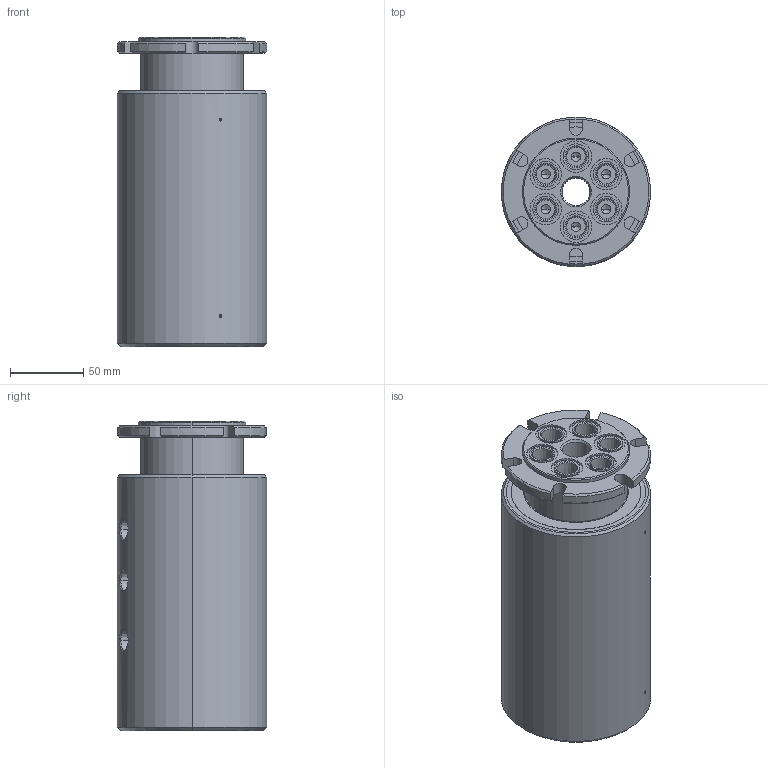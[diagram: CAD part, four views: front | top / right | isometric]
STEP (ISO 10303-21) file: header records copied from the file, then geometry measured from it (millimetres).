
FILE_DESCRIPTION (( 'STEP AP214' ), '1' );
FILE_NAME ('GP(M)-261.STEP', '2013-02-05T22:27:36', ( '' ), ( '' ), 'SwSTEP 2.0', 'SolidWorks 2011', '' );
FILE_SCHEMA (( 'AUTOMOTIVE_DESIGN' ));
Length unit declared in the file: inch
Products named in the file (1): GP(M)-261
Bounding box: 101.6 x 101.6 x 210.82 mm (x, y, z)
Volume: 1444315.2 mm3; surface area: 118852.5 mm2
Topology: 1 solids, 1 shells, 301 faces, 714 edges, 428 vertices
Faces by surface type: cylinder 120, cone 108, plane 59, bspline 12, torus 2
Entity records: 10153 total; most frequent: CARTESIAN_POINT 2738, DIRECTION 1493, ORIENTED_EDGE 1336, EDGE_CURVE 668, AXIS2_PLACEMENT_3D 613, VERTEX_POINT 428, EDGE_LOOP 362, CIRCLE 323
